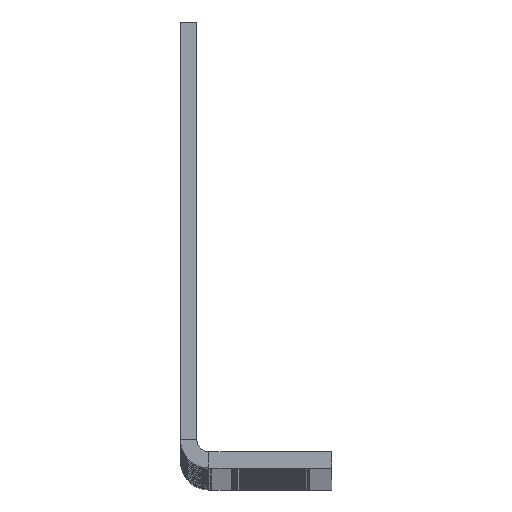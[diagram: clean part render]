
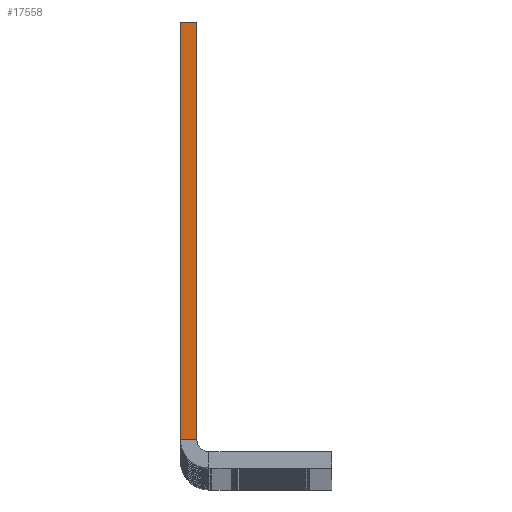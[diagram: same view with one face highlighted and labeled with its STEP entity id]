
A CAD part, top view. The second image highlights one B-rep face of the part: STEP entity #17558.
In plain terms, the highlighted planar face has unit normal (0, 0, 1).
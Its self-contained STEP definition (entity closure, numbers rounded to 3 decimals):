
#558 = EDGE_LOOP ( 'NONE', ( #26919, #23633, #60789, #46044 ) ) ;
#1605 = CARTESIAN_POINT ( 'NONE',  ( 3.5, 2., 766.5 ) ) ;
#4977 = VECTOR ( 'NONE', #60989, 1000. ) ;
#7261 = EDGE_CURVE ( 'NONE', #8496, #56526, #55257, .T. ) ;
#8496 = VERTEX_POINT ( 'NONE', #66925 ) ;
#10799 = LINE ( 'NONE', #66698, #4977 ) ;
#11355 = CARTESIAN_POINT ( 'NONE',  ( 2., 54.5, 766.5 ) ) ;
#13362 = DIRECTION ( 'NONE',  ( 1., 0., 0. ) ) ;
#15617 = DIRECTION ( 'NONE',  ( 1., 0., 0. ) ) ;
#17558 = ADVANCED_FACE ( 'NONE', ( #48743 ), #21761, .T. ) ;
#21523 = DIRECTION ( 'NONE',  ( 0., 0., 1. ) ) ;
#21761 = PLANE ( 'NONE',  #27277 ) ;
#23633 = ORIENTED_EDGE ( 'NONE', *, *, #58336, .T. ) ;
#25678 = LINE ( 'NONE', #54070, #42471 ) ;
#26919 = ORIENTED_EDGE ( 'NONE', *, *, #32732, .T. ) ;
#27277 = AXIS2_PLACEMENT_3D ( 'NONE', #1605, #21523, #15617 ) ;
#29246 = VECTOR ( 'NONE', #37223, 1000. ) ;
#29567 = VECTOR ( 'NONE', #13362, 1000. ) ;
#31709 = VERTEX_POINT ( 'NONE', #51781 ) ;
#31816 = CARTESIAN_POINT ( 'NONE',  ( 0., 54.5, 766.5 ) ) ;
#32732 = EDGE_CURVE ( 'NONE', #8496, #43689, #10799, .T. ) ;
#33188 = DIRECTION ( 'NONE',  ( 0., -1., 0. ) ) ;
#34126 = CARTESIAN_POINT ( 'NONE',  ( 0., 3.5, 766.5 ) ) ;
#35473 = LINE ( 'NONE', #34126, #29567 ) ;
#37223 = DIRECTION ( 'NONE',  ( 1., 0., 0. ) ) ;
#42471 = VECTOR ( 'NONE', #33188, 1000. ) ;
#43689 = VERTEX_POINT ( 'NONE', #55411 ) ;
#46044 = ORIENTED_EDGE ( 'NONE', *, *, #7261, .F. ) ;
#48743 = FACE_OUTER_BOUND ( 'NONE', #558, .T. ) ;
#51781 = CARTESIAN_POINT ( 'NONE',  ( 2., 3.5, 766.5 ) ) ;
#54070 = CARTESIAN_POINT ( 'NONE',  ( 2., 0., 766.5 ) ) ;
#55257 = LINE ( 'NONE', #31816, #29246 ) ;
#55411 = CARTESIAN_POINT ( 'NONE',  ( 0., 3.5, 766.5 ) ) ;
#56526 = VERTEX_POINT ( 'NONE', #11355 ) ;
#58336 = EDGE_CURVE ( 'NONE', #43689, #31709, #35473, .T. ) ;
#60789 = ORIENTED_EDGE ( 'NONE', *, *, #69533, .F. ) ;
#60989 = DIRECTION ( 'NONE',  ( 0., -1., 0. ) ) ;
#66698 = CARTESIAN_POINT ( 'NONE',  ( 0., 0., 766.5 ) ) ;
#66925 = CARTESIAN_POINT ( 'NONE',  ( 0., 54.5, 766.5 ) ) ;
#69533 = EDGE_CURVE ( 'NONE', #56526, #31709, #25678, .T. ) ;
